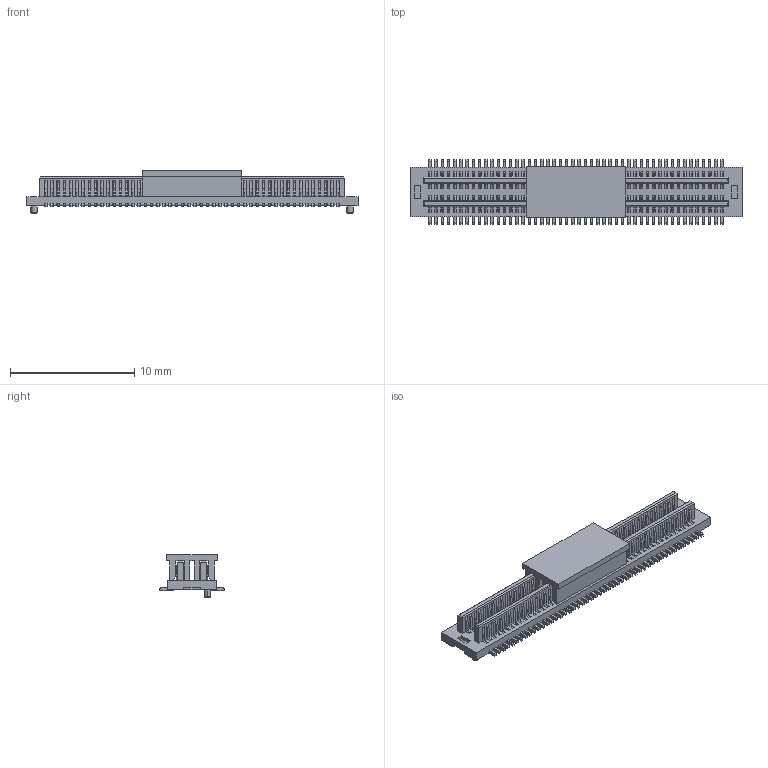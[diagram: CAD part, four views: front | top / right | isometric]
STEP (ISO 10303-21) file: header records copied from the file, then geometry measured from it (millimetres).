
FILE_DESCRIPTION(('CATIA V5 STEP Exchange'),'2;1');
FILE_NAME('F:\黄富鸿\板对板\PBB05\公座\H0.8\编带+盖\HC-PBB05-2-96-M-H0.8-G1-R-P-04（BTB0.5 双槽 公座 立贴 带柱 编带+盖）-HCTL.stp','2025-12-16T02:09:51+00:00',('none'),('none'),'CATIA Version 5 Release 20 GA (IN-10)','CATIA V5 STEP AP203','none');
FILE_SCHEMA(('CONFIG_CONTROL_DESIGN'));
Products named in the file (1): Part2
Bounding box: 26.7 x 5.2 x 3.45 mm (x, y, z)
Volume: 153.6 mm3; surface area: 1372.3 mm2
Topology: 98 solids, 98 shells, 5456 faces, 16710 edges, 11072 vertices
Faces by surface type: plane 3528, cylinder 1924, torus 4
Entity records: 159707 total; most frequent: ORIENTED_EDGE 33420, CARTESIAN_POINT 29652, DIRECTION 17760, EDGE_CURVE 16710, VECTOR 12470, LINE 12470, VERTEX_POINT 11072, EDGE_LOOP 5462
